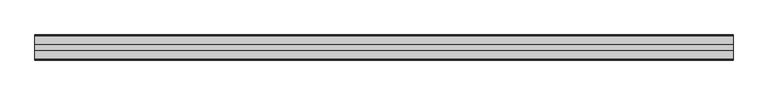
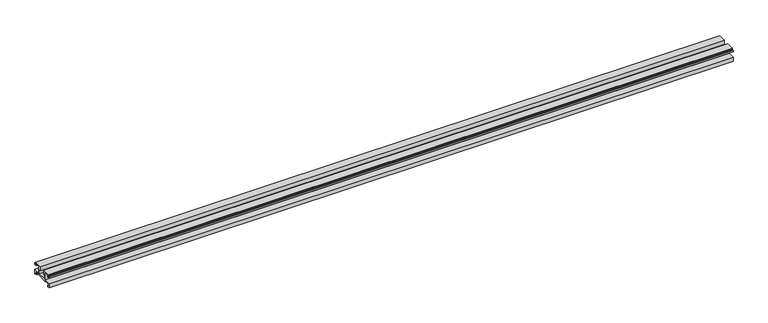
"""IFC4 building model written with IfcOpenShell, lengths in millimetres: proxy geometry, Weiku - Montante - Acoplamento vidro : Weiku - Montante - Acoplamento vidro."""

import ifcopenshell
import ifcopenshell.guid

model = None  # the IFC model being written
_history = None  # IfcOwnerHistory: only IFC2X3 demands one
_inside = {}  # id of a spatial element -> (the spatial element, [elements in it])
_under = {}  # id of a project, library or spatial element -> (it, [spatial elements below it])
_declared = {}  # id of a project -> (the project, [libraries it declares])
_typed = {}  # id of a type object -> (the type object, [elements of that type])
_made_of = {}  # id of a material, layer set ... -> (it, [elements and type objects made of it])


def new_model(schema):
    """Start an empty IFC model of exactly this schema.

    Asked for "IFC4X3", IfcOpenShell would pick the latest addendum, in which some entities
    have other attributes; the version numbers below select the first issue.
    IFC2X3 requires an IfcOwnerHistory on every rooted entity: one is made here for all.
    """
    global model, _history
    if schema == "IFC4X3":
        model = ifcopenshell.file(schema_version=(4, 3, 0, 0))
    else:
        model = ifcopenshell.file(schema=schema)
    _inside.clear()
    _under.clear()
    _declared.clear()
    _typed.clear()
    _made_of.clear()
    _history = None
    if model.schema == "IFC2X3":
        org = make("IfcOrganization", Name="unknown")
        user = make(
            "IfcPersonAndOrganization",
            ThePerson=make("IfcPerson", FamilyName="unknown"),
            TheOrganization=org,
        )
        app = make(
            "IfcApplication",
            ApplicationDeveloper=org,
            Version="unknown",
            ApplicationFullName="unknown",
            ApplicationIdentifier="unknown",
        )
        _history = make(
            "IfcOwnerHistory",
            OwningUser=user,
            OwningApplication=app,
            ChangeAction="ADDED",
            CreationDate=0,
        )
    return model


def make(cls, **values):
    """One entity of the class cls with the attributes given. An attribute that is None is left unset."""
    return model.create_entity(
        cls, **{name: value for name, value in values.items() if value is not None}
    )


def rooted(cls, **values):
    """An entity with a GlobalId (a new one), such as an element, a storey or a relation."""
    return make(cls, GlobalId=ifcopenshell.guid.new(), OwnerHistory=_history, **values)


def si_unit(unit_type, name, prefix=None):
    """IfcSIUnit, for example si_unit("LENGTHUNIT", "METRE", prefix="MILLI")."""
    return make("IfcSIUnit", UnitType=unit_type, Prefix=prefix, Name=name)


def assignment(units):
    """IfcUnitAssignment: the units of a project."""
    return None if units is None else make("IfcUnitAssignment", Units=units)


def point(xyz):
    """IfcCartesianPoint."""
    return None if xyz is None else make("IfcCartesianPoint", Coordinates=xyz)


def direction(xyz):
    """IfcDirection."""
    return None if xyz is None else make("IfcDirection", DirectionRatios=xyz)


def frame(location, z_axis=None, x_axis=None):
    """IfcAxis2Placement3D, a coordinate frame: its origin and axes. An axis left out is left unset."""
    return make(
        "IfcAxis2Placement3D",
        Location=point(location),
        Axis=direction(z_axis),
        RefDirection=direction(x_axis),
    )


def origin():
    """The frame at (0, 0, 0) with its axes left unset."""
    return frame((0.0, 0.0, 0.0))


def place(relative_to, where):
    """IfcLocalPlacement: puts the frame where relative to a parent placement (None: the world)."""
    return make(
        "IfcLocalPlacement", PlacementRelTo=relative_to, RelativePlacement=where
    )


def context(
    kind, dimensions, precision=None, world=None, true_north=None, identifier=None
):
    """IfcGeometricRepresentationContext, for example the 3D "Model" context."""
    return make(
        "IfcGeometricRepresentationContext",
        ContextIdentifier=identifier,
        ContextType=kind,
        CoordinateSpaceDimension=dimensions,
        Precision=precision,
        WorldCoordinateSystem=world,
        TrueNorth=true_north,
    )


def project(units=None, contexts=None):
    """IfcProject with its units and contexts."""
    return rooted(
        "IfcProject",
        Name="project",
        RepresentationContexts=contexts,
        UnitsInContext=assignment(units),
    )


def spatial(cls, under=None, at=None, **own):
    """A site, building, storey or space (cls), placed at a placement, below another one or the project."""
    s = rooted(cls, ObjectPlacement=at, **own)
    if under is not None:
        _under.setdefault(under.id(), (under, []))[1].append(s)
    return s


def polyline(points):
    """IfcPolyline through the points."""
    return make("IfcPolyline", Points=[point(p) for p in points])


def outline(outer, holes=None, kind="AREA"):
    """IfcArbitraryClosedProfileDef: a profile drawn as a closed curve; with holes, ...WithVoids."""
    if holes is None:
        return make("IfcArbitraryClosedProfileDef", ProfileType=kind, OuterCurve=outer)
    return make(
        "IfcArbitraryProfileDefWithVoids",
        ProfileType=kind,
        OuterCurve=outer,
        InnerCurves=holes,
    )


def extrude(swept, where, along, depth):
    """IfcExtrudedAreaSolid: the profile swept, set in the frame where, extruded along a direction by depth."""
    return make(
        "IfcExtrudedAreaSolid",
        SweptArea=swept,
        Position=where,
        ExtrudedDirection=direction(along),
        Depth=depth,
    )


def shape(context_of_items, identifier, shape_type, items):
    """IfcShapeRepresentation: the items that make up one representation, for example the "Body"."""
    return make(
        "IfcShapeRepresentation",
        ContextOfItems=context_of_items,
        RepresentationIdentifier=identifier,
        RepresentationType=shape_type,
        Items=items,
    )


def source(mapping_origin, context_of_items, identifier, shape_type, items):
    """IfcRepresentationMap: a shape defined once, which mapped items show again and again."""
    return make(
        "IfcRepresentationMap",
        MappingOrigin=mapping_origin,
        MappedRepresentation=shape(context_of_items, identifier, shape_type, items),
    )


def transform(
    local_origin,
    x_axis=None,
    y_axis=None,
    z_axis=None,
    scale=None,
    scale2=None,
    scale3=None,
    uniform=True,
):
    """IfcCartesianTransformationOperator3D, or its non-uniform kind. x_axis, y_axis, z_axis: its Axis1, 2, 3."""
    if uniform:
        return make(
            "IfcCartesianTransformationOperator3D",
            Axis1=direction(x_axis),
            Axis2=direction(y_axis),
            LocalOrigin=point(local_origin),
            Scale=scale,
            Axis3=direction(z_axis),
        )
    return make(
        "IfcCartesianTransformationOperator3DnonUniform",
        Axis1=direction(x_axis),
        Axis2=direction(y_axis),
        LocalOrigin=point(local_origin),
        Scale=scale,
        Axis3=direction(z_axis),
        Scale2=scale2,
        Scale3=scale3,
    )


def mapped(mapping_source, mapping_target):
    """IfcMappedItem: shows the shape of a source again, moved by a transform."""
    return make(
        "IfcMappedItem", MappingSource=mapping_source, MappingTarget=mapping_target
    )


def made_of(thing, what):
    """Note that an element or type object is made of a material, layer set ...; save() writes the relation."""
    if what is not None:
        _made_of.setdefault(what.id(), (what, []))[1].append(thing)
    return thing


def element(
    cls,
    number,
    at=None,
    inside=None,
    cuts=None,
    type_object=None,
    material=None,
    context=None,
    identifier="Body",
    shape_type=None,
    held_by="IfcProductDefinitionShape",
    body=None,
    shapes=None,
    **own,
):
    """One element of the class cls, such as IfcWall. Its Tag is "e" and its number.

    at: its placement. inside: the storey or other place that contains it. cuts: it is an
    opening in that element (IfcRelVoidsElement). A single representation is given by context,
    identifier, shape_type and body (its items); several are given by shapes. held_by: the class
    of the entity that holds the representations. save() writes the other relations.
    """
    e = rooted(cls, Tag="e%d" % number, ObjectPlacement=at, **own)
    if body is not None:
        shapes = [shape(context, identifier, shape_type, body)]
    if shapes is not None:
        e.Representation = make(held_by, Representations=shapes)
    if inside is not None:
        _inside.setdefault(inside.id(), (inside, []))[1].append(e)
    if cuts is not None:
        rooted(
            "IfcRelVoidsElement", RelatingBuildingElement=cuts, RelatedOpeningElement=e
        )
    if type_object is not None:
        _typed.setdefault(type_object.id(), (type_object, []))[1].append(e)
    return made_of(e, material)


def aggregate(whole, parts):
    """IfcRelAggregates: a whole, such as a stair, and the parts it consists of."""
    return rooted("IfcRelAggregates", RelatingObject=whole, RelatedObjects=parts)


def save(model, path):
    """Write the relations noted so far, then the file.

    IfcRelAggregates (storeys below a building ...), IfcRelContainedInSpatialStructure (elements
    in a storey), IfcRelDefinesByType, IfcRelAssociatesMaterial and IfcRelDeclares: one each for
    every whole, place, type object, material and project.
    """
    for whole, parts in _under.values():
        aggregate(whole, parts)
    for where, things in _inside.values():
        rooted(
            "IfcRelContainedInSpatialStructure",
            RelatedElements=things,
            RelatingStructure=where,
        )
    for kind, things in _typed.values():
        rooted("IfcRelDefinesByType", RelatedObjects=things, RelatingType=kind)
    for what, things in _made_of.values():
        rooted("IfcRelAssociatesMaterial", RelatedObjects=things, RelatingMaterial=what)
    for by, libraries in _declared.values():
        rooted("IfcRelDeclares", RelatingContext=by, RelatedDefinitions=libraries)
    model.write(path)


def generic_models_bb06a26a(model_context):
    return source(origin(), model_context, "Body", "SweptSolid", [
        extrude(outline(polyline([(-35.405, 5.1494), (-35.405, 6.8004), (-45.741, 6.8004), (-45.741, 2.6094), (-43.8784, 2.6094), (-43.8784, 0.0), (-47.9014508, 0.0), (-47.9014508, 8.79), (-34.946, 8.79), (-34.946, 23.3104), (-43.5397, 23.3104), (-43.5397, 19.204), (-47.9, 19.204), (-47.9, 22.8024), (-46.9264, 22.8024), (-46.9264, 20.3894), (-44.725, 20.3894), (-44.725, 23.9454), (-45.5264504, 23.9454), (-45.5264504, 25.3), (-30.4164, 25.3), (-30.4164, 16.283), (-32.4484, 16.283), (-32.4484, 8.8), (-15.4516, 8.8), (-15.4516, 16.283), (-17.4836, 16.283), (-17.4836, 25.3), (-2.3735496, 25.3), (-2.3735496, 23.9454), (-3.175, 23.9454), (-3.175, 20.3894), (-0.9736, 20.3894), (-0.9736, 22.8024), (0.0, 22.8024), (0.0, 19.204), (-4.3603, 19.204), (-4.3603, 23.3104), (-12.954, 23.3104), (-12.954, 8.79), (0.0014508, 8.79), (0.0014508, 0.0), (-4.0216, 0.0), (-4.0216, 2.6094), (-2.159, 2.6094), (-2.159, 6.8004), (-12.495, 6.8004), (-12.495, 5.1494), (-35.405, 5.1494)])), frame((-665.75, 0.0, 0.0), z_axis=(1.0, 0.0, 0.0), x_axis=(0.0, 1.0, 0.0)), (0.0, 0.0, 1.0), 1331.5),
    ])


if __name__ == "__main__":
    model = new_model("IFC4")
    model_context = context("Model", 3, world=origin())
    ifc_project = project(units=[si_unit("LENGTHUNIT", "METRE", prefix="MILLI")], contexts=[model_context])
    site = spatial("IfcSite", under=ifc_project)
    building = spatial("IfcBuilding", under=site)
    placement = place(None, origin())
    generic_models_shape = generic_models_bb06a26a(model_context)
    element("IfcBuildingElementProxy", 1, Name="Weiku - Montante - Acoplamento vidro : Weiku - Montante - Acoplamento vidro", ObjectType="Weiku - Montante - Acoplamento vidro : Weiku - Montante - Acoplamento vidro", at=placement, inside=building, context=model_context, shape_type="MappedRepresentation", body=[
        mapped(generic_models_shape, transform((0.0, 0.0, 0.0), x_axis=(1.0, 0.0, 0.0), y_axis=(0.0, 1.0, 0.0), z_axis=(0.0, 0.0, 1.0))),
    ])
    save(model, "model.ifc")
